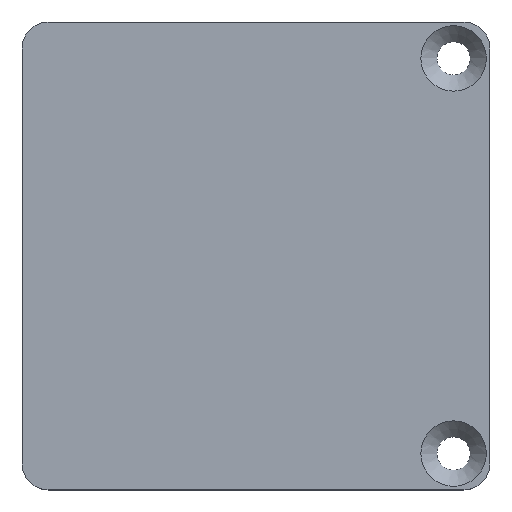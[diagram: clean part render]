
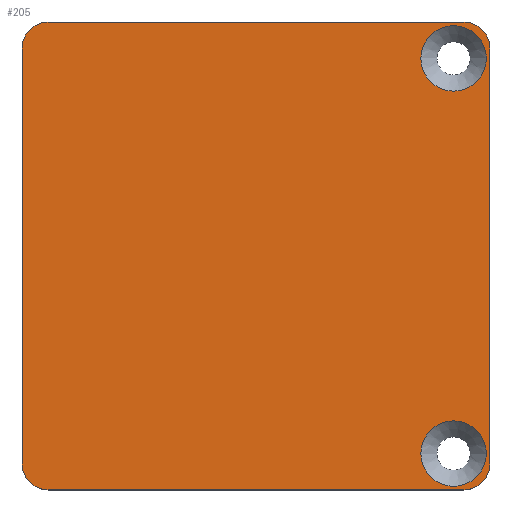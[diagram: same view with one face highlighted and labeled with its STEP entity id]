
A CAD part, top view. The second image highlights one B-rep face of the part: STEP entity #205.
In plain terms, the highlighted planar face has unit normal (0, 0, 1).
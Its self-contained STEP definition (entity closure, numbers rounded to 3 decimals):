
#4 = FACE_BOUND ( 'NONE', #362, .T. ) ;
#5 = AXIS2_PLACEMENT_3D ( 'NONE', #160, #250, #555 ) ;
#7 = CARTESIAN_POINT ( 'NONE',  ( 19., 19., 2. ) ) ;
#8 = VECTOR ( 'NONE', #331, 1000. ) ;
#20 = AXIS2_PLACEMENT_3D ( 'NONE', #235, #182, #509 ) ;
#24 = FACE_BOUND ( 'NONE', #202, .T. ) ;
#30 = ORIENTED_EDGE ( 'NONE', *, *, #513, .F. ) ;
#32 = CIRCLE ( 'NONE', #464, 3.15 ) ;
#39 = ORIENTED_EDGE ( 'NONE', *, *, #177, .F. ) ;
#54 = AXIS2_PLACEMENT_3D ( 'NONE', #152, #522, #61 ) ;
#60 = CARTESIAN_POINT ( 'NONE',  ( 20., 22.5, 2. ) ) ;
#61 = DIRECTION ( 'NONE',  ( 1., 0., 0. ) ) ;
#62 = CIRCLE ( 'NONE', #238, 3.15 ) ;
#67 = CARTESIAN_POINT ( 'NONE',  ( -22.5, 20., 2. ) ) ;
#76 = ORIENTED_EDGE ( 'NONE', *, *, #287, .F. ) ;
#80 = CIRCLE ( 'NONE', #140, 2.5 ) ;
#82 = EDGE_CURVE ( 'NONE', #432, #583, #499, .T. ) ;
#102 = EDGE_CURVE ( 'NONE', #350, #301, #383, .T. ) ;
#108 = CARTESIAN_POINT ( 'NONE',  ( 19., 19., 2. ) ) ;
#112 = CARTESIAN_POINT ( 'NONE',  ( 22.5, -22.5, 2. ) ) ;
#117 = ORIENTED_EDGE ( 'NONE', *, *, #448, .T. ) ;
#129 = VERTEX_POINT ( 'NONE', #514 ) ;
#133 = DIRECTION ( 'NONE',  ( 1., 0., 0. ) ) ;
#134 = DIRECTION ( 'NONE',  ( 0., 0., 1. ) ) ;
#140 = AXIS2_PLACEMENT_3D ( 'NONE', #429, #161, #564 ) ;
#147 = ORIENTED_EDGE ( 'NONE', *, *, #82, .T. ) ;
#152 = CARTESIAN_POINT ( 'NONE',  ( -22.5, 22.5, 2. ) ) ;
#154 = PLANE ( 'NONE',  #54 ) ;
#156 = EDGE_CURVE ( 'NONE', #377, #571, #159, .T. ) ;
#159 = CIRCLE ( 'NONE', #5, 2.5 ) ;
#160 = CARTESIAN_POINT ( 'NONE',  ( -20., -20., 2. ) ) ;
#161 = DIRECTION ( 'NONE',  ( 0., 0., 1. ) ) ;
#177 = EDGE_CURVE ( 'NONE', #301, #350, #450, .T. ) ;
#178 = LINE ( 'NONE', #495, #441 ) ;
#182 = DIRECTION ( 'NONE',  ( 0., 0., 1. ) ) ;
#184 = ORIENTED_EDGE ( 'NONE', *, *, #554, .T. ) ;
#189 = DIRECTION ( 'NONE',  ( 0., 0., 1. ) ) ;
#190 = VERTEX_POINT ( 'NONE', #199 ) ;
#198 = EDGE_CURVE ( 'NONE', #571, #190, #488, .T. ) ;
#199 = CARTESIAN_POINT ( 'NONE',  ( 20., -22.5, 2. ) ) ;
#202 = EDGE_LOOP ( 'NONE', ( #76, #30 ) ) ;
#205 = ADVANCED_FACE ( 'NONE', ( #24, #4, #367 ), #154, .T. ) ;
#207 = CARTESIAN_POINT ( 'NONE',  ( 22.5, -22.5, 2. ) ) ;
#215 = DIRECTION ( 'NONE',  ( 1., 0., 0. ) ) ;
#217 = VECTOR ( 'NONE', #557, 1000. ) ;
#227 = LINE ( 'NONE', #394, #8 ) ;
#231 = DIRECTION ( 'NONE',  ( 0., -1., 0. ) ) ;
#235 = CARTESIAN_POINT ( 'NONE',  ( 20., 20., 2. ) ) ;
#238 = AXIS2_PLACEMENT_3D ( 'NONE', #471, #427, #215 ) ;
#250 = DIRECTION ( 'NONE',  ( 0., 0., 1. ) ) ;
#252 = DIRECTION ( 'NONE',  ( 1., 0., 0. ) ) ;
#253 = AXIS2_PLACEMENT_3D ( 'NONE', #7, #312, #357 ) ;
#257 = VERTEX_POINT ( 'NONE', #67 ) ;
#260 = CARTESIAN_POINT ( 'NONE',  ( 22.15, 19., 2. ) ) ;
#271 = EDGE_CURVE ( 'NONE', #504, #257, #80, .T. ) ;
#272 = VERTEX_POINT ( 'NONE', #294 ) ;
#276 = ORIENTED_EDGE ( 'NONE', *, *, #271, .T. ) ;
#278 = CARTESIAN_POINT ( 'NONE',  ( 15.85, -19., 2. ) ) ;
#285 = CIRCLE ( 'NONE', #486, 2.5 ) ;
#287 = EDGE_CURVE ( 'NONE', #272, #525, #62, .T. ) ;
#294 = CARTESIAN_POINT ( 'NONE',  ( 22.15, -19., 2. ) ) ;
#301 = VERTEX_POINT ( 'NONE', #378 ) ;
#312 = DIRECTION ( 'NONE',  ( 0., 0., 1. ) ) ;
#313 = CARTESIAN_POINT ( 'NONE',  ( -20., -22.5, 2. ) ) ;
#328 = AXIS2_PLACEMENT_3D ( 'NONE', #108, #374, #252 ) ;
#331 = DIRECTION ( 'NONE',  ( -1., 0., 0. ) ) ;
#342 = ORIENTED_EDGE ( 'NONE', *, *, #198, .T. ) ;
#346 = EDGE_CURVE ( 'NONE', #129, #432, #437, .T. ) ;
#350 = VERTEX_POINT ( 'NONE', #260 ) ;
#355 = EDGE_LOOP ( 'NONE', ( #342, #485, #451, #147, #117, #276, #184, #487 ) ) ;
#357 = DIRECTION ( 'NONE',  ( 1., 0., 0. ) ) ;
#362 = EDGE_LOOP ( 'NONE', ( #399, #39 ) ) ;
#367 = FACE_OUTER_BOUND ( 'NONE', #355, .T. ) ;
#374 = DIRECTION ( 'NONE',  ( 0., 0., 1. ) ) ;
#377 = VERTEX_POINT ( 'NONE', #425 ) ;
#378 = CARTESIAN_POINT ( 'NONE',  ( 15.85, 19., 2. ) ) ;
#383 = CIRCLE ( 'NONE', #253, 3.15 ) ;
#394 = CARTESIAN_POINT ( 'NONE',  ( 22.5, 22.5, 2. ) ) ;
#399 = ORIENTED_EDGE ( 'NONE', *, *, #102, .F. ) ;
#404 = CARTESIAN_POINT ( 'NONE',  ( 20., -20., 2. ) ) ;
#406 = CARTESIAN_POINT ( 'NONE',  ( 19., -19., 2. ) ) ;
#425 = CARTESIAN_POINT ( 'NONE',  ( -22.5, -20., 2. ) ) ;
#427 = DIRECTION ( 'NONE',  ( 0., 0., 1. ) ) ;
#429 = CARTESIAN_POINT ( 'NONE',  ( -20., 20., 2. ) ) ;
#432 = VERTEX_POINT ( 'NONE', #560 ) ;
#437 = LINE ( 'NONE', #112, #458 ) ;
#441 = VECTOR ( 'NONE', #231, 1000. ) ;
#447 = CARTESIAN_POINT ( 'NONE',  ( -20., 22.5, 2. ) ) ;
#448 = EDGE_CURVE ( 'NONE', #583, #504, #227, .T. ) ;
#450 = CIRCLE ( 'NONE', #328, 3.15 ) ;
#451 = ORIENTED_EDGE ( 'NONE', *, *, #346, .T. ) ;
#458 = VECTOR ( 'NONE', #529, 1000. ) ;
#464 = AXIS2_PLACEMENT_3D ( 'NONE', #406, #189, #133 ) ;
#471 = CARTESIAN_POINT ( 'NONE',  ( 19., -19., 2. ) ) ;
#485 = ORIENTED_EDGE ( 'NONE', *, *, #558, .T. ) ;
#486 = AXIS2_PLACEMENT_3D ( 'NONE', #404, #134, #579 ) ;
#487 = ORIENTED_EDGE ( 'NONE', *, *, #156, .T. ) ;
#488 = LINE ( 'NONE', #207, #217 ) ;
#495 = CARTESIAN_POINT ( 'NONE',  ( -22.5, -22.5, 2. ) ) ;
#499 = CIRCLE ( 'NONE', #20, 2.5 ) ;
#504 = VERTEX_POINT ( 'NONE', #447 ) ;
#509 = DIRECTION ( 'NONE',  ( 1., 0., 0. ) ) ;
#513 = EDGE_CURVE ( 'NONE', #525, #272, #32, .T. ) ;
#514 = CARTESIAN_POINT ( 'NONE',  ( 22.5, -20., 2. ) ) ;
#522 = DIRECTION ( 'NONE',  ( 0., 0., 1. ) ) ;
#525 = VERTEX_POINT ( 'NONE', #278 ) ;
#529 = DIRECTION ( 'NONE',  ( 0., 1., 0. ) ) ;
#554 = EDGE_CURVE ( 'NONE', #257, #377, #178, .T. ) ;
#555 = DIRECTION ( 'NONE',  ( 1., 0., 0. ) ) ;
#557 = DIRECTION ( 'NONE',  ( 1., 0., 0. ) ) ;
#558 = EDGE_CURVE ( 'NONE', #190, #129, #285, .T. ) ;
#560 = CARTESIAN_POINT ( 'NONE',  ( 22.5, 20., 2. ) ) ;
#564 = DIRECTION ( 'NONE',  ( 1., 0., 0. ) ) ;
#571 = VERTEX_POINT ( 'NONE', #313 ) ;
#579 = DIRECTION ( 'NONE',  ( 1., 0., 0. ) ) ;
#583 = VERTEX_POINT ( 'NONE', #60 ) ;
